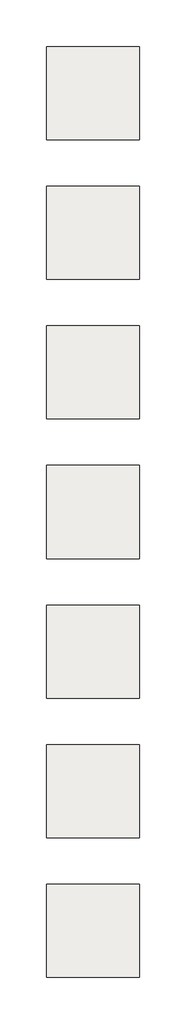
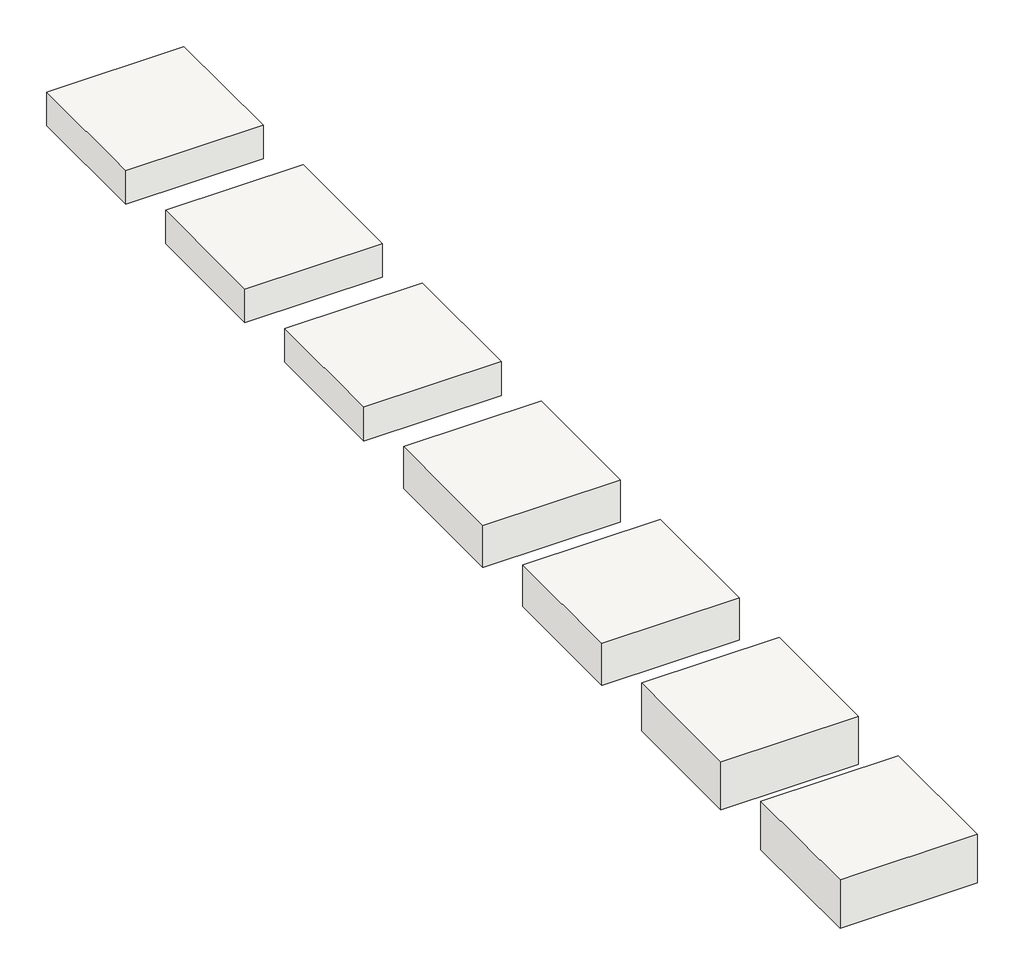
# One storey: 7 slabs.
"""IFC4 building model written with IfcOpenShell, lengths in millimetres."""

from ifc_helpers import new_model, si_unit, frame, origin, place, context, project, spatial, polyline, outline, extrude, element, save

model = new_model("IFC4")

# Units and contexts
model_context = context("Model", 3, world=origin())
ifc_project = project(units=[si_unit("LENGTHUNIT", "METRE", prefix="MILLI")], contexts=[model_context])

# Site, building, storey
site = spatial("IfcSite", under=ifc_project)
building = spatial("IfcBuilding", under=site)
storey = spatial("IfcBuildingStorey", under=building, Name="7_Pārsegumi", Elevation=24000.0)

# Slabs
placement = place(None, origin())
element("IfcSlab", 1, ObjectType="RIGIPS - 7.51.02 - 44dB", at=placement, inside=storey, context=model_context, shape_type="SweptSolid", body=[
    extrude(outline(polyline([(19000.0, 16606.25), (19000.0, 15606.25), (18000.0, 15606.25), (18000.0, 16606.25), (19000.0, 16606.25)])), frame((0.0, 0.0, 23742.5), z_axis=(0.0, 0.0, 1.0), x_axis=(1.0, 0.0, 0.0)), (0.0, 0.0, 1.0), 257.5),
])
element("IfcSlab", 2, ObjectType="RIGIPS - 7.51.02 - 48dB", at=placement, inside=storey, context=model_context, shape_type="SweptSolid", body=[
    extrude(outline(polyline([(19000.0, 15106.25), (19000.0, 14106.25), (18000.0, 14106.25), (18000.0, 15106.25), (19000.0, 15106.25)])), frame((0.0, 0.0, 23742.5), z_axis=(0.0, 0.0, 1.0), x_axis=(1.0, 0.0, 0.0)), (0.0, 0.0, 1.0), 257.5),
])
element("IfcSlab", 3, ObjectType="RIGIPS - 7.51.02 - REI 30 - 48dB", at=placement, inside=storey, context=model_context, shape_type="SweptSolid", body=[
    extrude(outline(polyline([(19000.0, 13606.25), (19000.0, 12606.25), (18000.0, 12606.25), (18000.0, 13606.25), (19000.0, 13606.25)])), frame((0.0, 0.0, 23740.0), z_axis=(0.0, 0.0, 1.0), x_axis=(1.0, 0.0, 0.0)), (0.0, 0.0, 1.0), 260.0),
])
element("IfcSlab", 4, ObjectType="RIGIPS - 7.51.05 - 55dB", at=placement, inside=storey, context=model_context, shape_type="SweptSolid", body=[
    extrude(outline(polyline([(19000.0, 12106.25), (19000.0, 11106.25), (18000.0, 11106.25), (18000.0, 12106.25), (19000.0, 12106.25)])), frame((0.0, 0.0, 23677.5), z_axis=(0.0, 0.0, 1.0), x_axis=(1.0, 0.0, 0.0)), (0.0, 0.0, 1.0), 322.5),
])
element("IfcSlab", 5, ObjectType="RIGIPS - 7.51.05 - REI 60 - 55dB", at=placement, inside=storey, context=model_context, shape_type="SweptSolid", body=[
    extrude(outline(polyline([(19000.0, 10606.25), (19000.0, 9606.25), (18000.0, 9606.25), (18000.0, 10606.25), (19000.0, 10606.25)])), frame((0.0, 0.0, 23677.5), z_axis=(0.0, 0.0, 1.0), x_axis=(1.0, 0.0, 0.0)), (0.0, 0.0, 1.0), 322.5),
])
element("IfcSlab", 6, ObjectType="RIGIPS - 7.51.06 - 58dB", at=placement, inside=storey, context=model_context, shape_type="SweptSolid", body=[
    extrude(outline(polyline([(19000.0, 9106.25), (19000.0, 8106.25), (18000.0, 8106.25), (18000.0, 9106.25), (19000.0, 9106.25)])), frame((0.0, 0.0, 23629.5), z_axis=(0.0, 0.0, 1.0), x_axis=(1.0, 0.0, 0.0)), (0.0, 0.0, 1.0), 370.5),
])
element("IfcSlab", 7, ObjectType="RIGIPS - 7.51.06 - REI 60 - 58dB", at=placement, inside=storey, context=model_context, shape_type="SweptSolid", body=[
    extrude(outline(polyline([(19000.0, 7606.25), (19000.0, 6606.25), (18000.0, 6606.25), (18000.0, 7606.25), (19000.0, 7606.25)])), frame((0.0, 0.0, 23627.0), z_axis=(0.0, 0.0, 1.0), x_axis=(1.0, 0.0, 0.0)), (0.0, 0.0, 1.0), 373.0),
])

save(model, "model.ifc")
